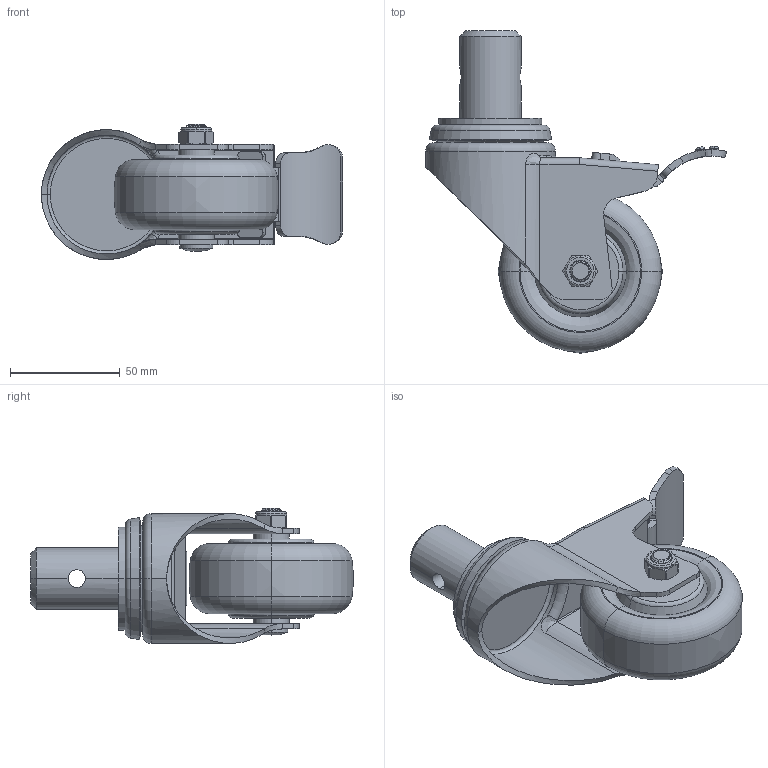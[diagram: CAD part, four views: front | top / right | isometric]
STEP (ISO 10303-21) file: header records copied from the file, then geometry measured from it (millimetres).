
FILE_DESCRIPTION((''),'2;1');
FILE_NAME('50163L-503-86_ASM','2020-01-01T',('L'),(''),'PRO/ENGINEER BY PARAMETRIC TECHNOLOGY CORPORATION, 2010280','PRO/ENGINEER BY PARAMETRIC TECHNOLOGY CORPORATION, 2010280','');
FILE_SCHEMA(('CONFIG_CONTROL_DESIGN'));
Length unit declared in the file: millimetre
Products named in the file (6): 50163; 540-14; 503-986; 570-33; 570-34; 50163L-503-86_ASM
Assembly tree (5 placements, depth 2):
  50163L-503-86_ASM
    50163
    540-14
    503-986
    570-33
    570-34
Bounding box: 137.36 x 147.14 x 61.65 mm (x, y, z)
Volume: 225453 mm3; surface area: 60022 mm2
Topology: 9 solids, 9 shells, 288 faces, 688 edges, 423 vertices
Faces by surface type: cylinder 108, plane 85, bspline 39, cone 30, torus 24, sphere 2
Entity records: 13907 total; most frequent: CARTESIAN_POINT 7404, ORIENTED_EDGE 1372, DIRECTION 1254, EDGE_CURVE 686, AXIS2_PLACEMENT_3D 483, VERTEX_POINT 423, EDGE_LOOP 305, VECTOR 288
